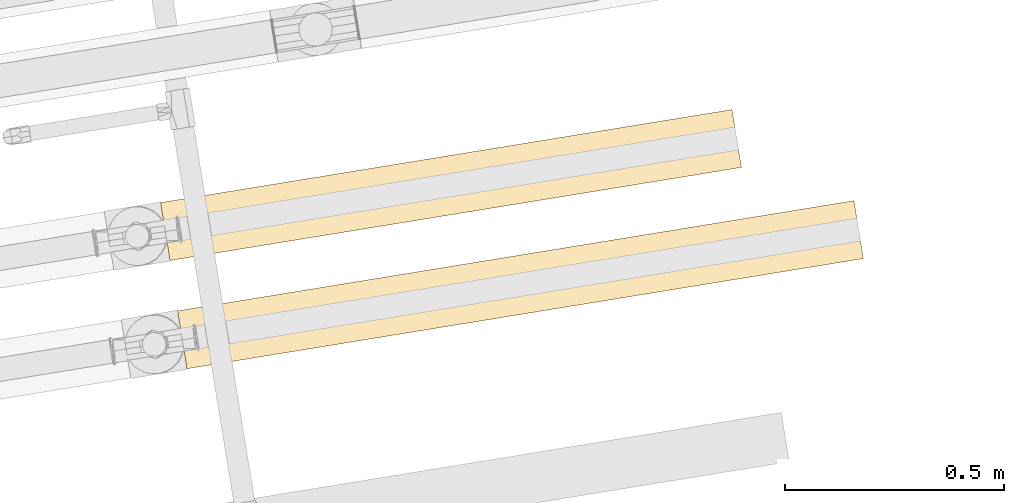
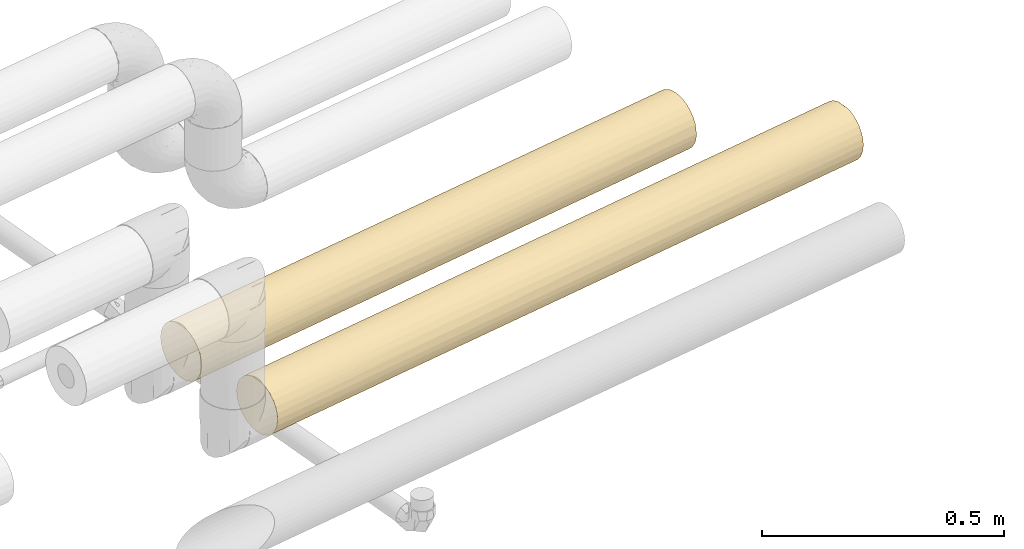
# One storey, part 2 of 56: 2 coverings.
"""IFC2X3 building model written with IfcOpenShell, lengths in millimetres."""

from ifc_helpers import new_model, entity, si_unit, converted_unit, derived_unit, direction, frame, origin, origin_with_axes, place, context, subcontext, project, spatial, faceted_brep, material, type_object, element, save


model = new_model("IFC2X3")

# Units and contexts
model_context = context("Model", 3, precision=0.01, world=origin(), true_north=direction((6.12323399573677e-17, 1.0)))
plan_context = context("Plan", 3, precision=1e-05, world=origin_with_axes())
body_context = subcontext(model_context, "Body", "Model", "MODEL_VIEW")
ifc_project = project(units=[converted_unit("PLANEANGLEUNIT", "DEGREE", entity("IfcPositiveLengthMeasure", 0.0174532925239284), si_unit("PLANEANGLEUNIT", "RADIAN"), dimensions=[0, 0, 0, 0, 0, 0, 0]), si_unit("AREAUNIT", "SQUARE_METRE"), si_unit("LENGTHUNIT", "METRE", prefix="MILLI"), si_unit("MASSUNIT", "GRAM", prefix="KILO"), si_unit("POWERUNIT", "WATT"), si_unit("PRESSUREUNIT", "PASCAL", prefix="KILO"), si_unit("FORCEUNIT", "NEWTON", prefix="KILO"), si_unit("ELECTRICVOLTAGEUNIT", "VOLT"), si_unit("ELECTRICCURRENTUNIT", "AMPERE"), si_unit("THERMODYNAMICTEMPERATUREUNIT", "DEGREE_CELSIUS"), si_unit("TIMEUNIT", "SECOND"), si_unit("VOLUMEUNIT", "CUBIC_METRE"), derived_unit("LINEARVELOCITYUNIT", [(si_unit("LENGTHUNIT", "METRE"), 1), (si_unit("TIMEUNIT", "SECOND"), -1)]), derived_unit("VOLUMETRICFLOWRATEUNIT", [(si_unit("VOLUMEUNIT", "CUBIC_METRE"), 1), (si_unit("TIMEUNIT", "SECOND"), -1)]), derived_unit("THERMALTRANSMITTANCEUNIT", [(si_unit("POWERUNIT", "WATT"), 1), (si_unit("THERMODYNAMICTEMPERATUREUNIT", "KELVIN"), -1), (si_unit("AREAUNIT", "SQUARE_METRE"), -1)]), derived_unit("SOUNDPRESSUREUNIT", [(si_unit("PRESSUREUNIT", "PASCAL"), 1)])], contexts=[model_context, plan_context])

# Site, building, storey
site_placement = place(None, frame((-3.09682673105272e-06, 1.93776733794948e-05, 0.0), z_axis=(0.0, 0.0, 1.0), x_axis=(-0.160806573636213, 0.986985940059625, 0.0)))
site = spatial("IfcSite", under=ifc_project, at=site_placement, Name="Default", CompositionType="ELEMENT")
building_placement = place(site_placement, frame((0.0, 0.0, 0.0), z_axis=(0.0, 0.0, 1.0), x_axis=(1.0, -2.77555756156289e-17, 0.0)))
building = spatial("IfcBuilding", under=site, at=building_placement, Name="Bygning (endres i Project Information)", CompositionType="ELEMENT")
storey_placement = place(building_placement, frame((0.0, 0.0, 51360.0000000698), z_axis=(0.0, 0.0, 1.0), x_axis=(1.0, -2.77555756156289e-17, 0.0)))
storey = spatial("IfcBuildingStorey", under=building, at=storey_placement, Name="H01-Nivå D+0,36", CompositionType="ELEMENT", Elevation=51360.0000000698)

# Coverings
ifc_material = material(Name="3200.003 Tur")
covering_type = type_object("IfcCoveringType", Name="Pipe Insulation:GLAVA Rørskål ClimPipe Alu2, isol.kl.4, 45°C", PredefinedType="INSULATION")
covering_1_placement = place(storey_placement, frame((1010969.84157053, -396821.852574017, 3231.40472772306), z_axis=(0.0, 0.0, 1.0), x_axis=(1.0, -2.77555756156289e-17, 0.0)))
element("IfcCovering", 1, at=covering_1_placement, inside=storey, type_object=covering_type, material=ifc_material, Name="Pipe Insulation:GLAVA Rørskål ClimPipe Alu2, isol.kl.4, 45°C", ObjectType="Pipe Insulation:GLAVA Rørskål ClimPipe Alu2, isol.kl.4, 45°C", PredefinedType="INSULATION", context=body_context, shape_type="Brep", body=[
    faceted_brep([(52.3471952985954, 1565.09527223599, 133.595272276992), (84.8433492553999, 1565.09527223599, 133.595272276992), (98.6988514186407, 1565.09527223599, 128.451554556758), (111.084056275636, 1565.09527223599, 120.399743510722), (121.401493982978, 1565.09527223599, 109.832427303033), (129.153520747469, 1565.09527223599, 97.2605569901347), (133.962563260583, 1565.09527223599, 83.296199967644), (135.595272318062, 1565.09527223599, 68.5952722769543), (133.312302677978, 1565.09527223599, 51.2543962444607), (126.618974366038, 1565.09527223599, 35.0952722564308), (115.971426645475, 1565.09527223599, 21.2191179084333), (102.095272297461, 1565.09527223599, 10.5715701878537), (85.9361483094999, 1565.09527223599, 3.87824187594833), (68.5952722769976, 1565.09527223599, 1.5952722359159), (51.2543962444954, 1565.09527223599, 3.87824187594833), (35.0952722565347, 1565.09527223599, 10.5715701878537), (21.2191179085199, 1565.09527223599, 21.2191179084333), (10.5715701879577, 1565.09527223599, 35.0952722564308), (3.87824187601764, 1565.09527223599, 51.2543962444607), (1.59527223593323, 1565.09527223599, 68.5952722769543), (3.22798129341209, 1565.09527223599, 83.2961999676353), (8.03702380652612, 1565.09527223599, 97.2605569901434), (15.7890505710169, 1565.09527223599, 109.832427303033), (26.1064882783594, 1565.09527223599, 120.399743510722), (38.4916931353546, 1565.09527223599, 128.451554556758), (52.3471952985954, 1.59527223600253, 133.595272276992), (38.4916931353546, 1.59527223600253, 128.451554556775), (26.1064882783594, 1.59527223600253, 120.39974351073), (15.7890505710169, 1.59527223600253, 109.832427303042), (8.03702380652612, 1.59527223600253, 97.2605569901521), (3.22798129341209, 1.59527223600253, 83.296199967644), (1.59527223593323, 1.59527223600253, 68.5952722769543), (3.87824187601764, 1.59527223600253, 51.2543962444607), (10.5715701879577, 1.59527223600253, 35.0952722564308), (21.2191179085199, 1.59527223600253, 21.2191179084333), (35.0952722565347, 1.59527223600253, 10.5715701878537), (51.2543962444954, 1.59527223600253, 3.87824187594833), (68.5952722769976, 1.59527223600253, 1.5952722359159), (85.9361483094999, 1.59527223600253, 3.87824187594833), (102.095272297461, 1.59527223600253, 10.5715701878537), (115.971426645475, 1.59527223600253, 21.2191179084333), (126.618974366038, 1.59527223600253, 35.0952722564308), (133.312302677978, 1.59527223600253, 51.2543962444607), (135.595272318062, 1.59527223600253, 68.5952722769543), (133.962563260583, 1.59527223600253, 83.296199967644), (129.153520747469, 1.59527223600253, 97.2605569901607), (121.401493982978, 1.59527223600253, 109.832427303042), (111.084056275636, 1.59527223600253, 120.39974351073), (98.6988514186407, 1.59527223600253, 128.451554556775), (84.8433492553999, 1.59527223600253, 133.595272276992), (121.749946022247, 361.472667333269, 27.8082563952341), (130.495200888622, 1194.38698295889, 42.955482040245), (134.599849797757, 1225.27775070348, 57.0889369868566), (132.291921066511, 783.345261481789, 47.8169918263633), (130.495200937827, 372.303551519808, 42.9554821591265), (134.406311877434, 430.307763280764, 56.0291641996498), (68.5952722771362, 573.211876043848, 1.5952722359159), (79.8209605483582, 335.906756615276, 2.54238491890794), (68.5952722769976, 1069.15357413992, 1.5952722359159), (82.7358221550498, 1064.07945552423, 3.104472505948), (82.0682563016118, 700.837559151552, 2.96388720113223), (135.595272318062, 1174.22027223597, 68.5952722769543), (135.595272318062, 993.478607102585, 68.5952722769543), (121.74994592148, 783.345269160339, 27.8082562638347), (135.595272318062, 783.345272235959, 68.5952722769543), (135.595272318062, 573.211937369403, 68.5952722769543), (109.382287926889, 485.463077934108, 15.440598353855), (112.715543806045, 799.859017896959, 18.1730386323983), (109.382287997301, 1114.25496017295, 15.4405984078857), (68.5952722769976, 993.478629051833, 1.5952722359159), (121.749946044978, 1205.21787359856, 27.8082564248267), (94.2350622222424, 873.708229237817, 6.69534354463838), (94.2350622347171, 1254.45068068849, 6.6953435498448), (94.2350621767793, 393.770886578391, 6.69534352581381), (135.595272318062, 392.470272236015, 68.5952722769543), (135.595272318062, 287.403604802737, 68.5952722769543), (42.9554822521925, 372.303558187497, 6.69534357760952), (57.0889373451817, 341.412788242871, 2.59069469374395), (3.10447251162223, 1064.07945602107, 54.454722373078), (27.8082565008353, 1205.21787495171, 15.4405984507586), (15.4405984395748, 1114.25496203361, 27.8082565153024), (57.0889373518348, 1225.27775613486, 2.59069469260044), (47.816992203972, 783.345272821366, 4.8986233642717), (42.9554822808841, 1194.38698718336, 6.69534356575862), (27.808256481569, 361.472669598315, 15.4405984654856), (15.4405984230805, 485.463080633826, 27.8082565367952), (18.1730387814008, 799.859021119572, 24.4750005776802), (27.8082564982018, 783.34527231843, 15.4405984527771), (2.96388720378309, 700.837560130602, 55.1222882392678), (1.59527223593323, 573.209787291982, 68.5952722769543), (1.59527223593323, 993.480118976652, 68.5952722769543), (1.59527223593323, 1069.15033529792, 68.5952722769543), (6.69534355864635, 1254.45068118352, 42.9554822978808), (6.6953435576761, 873.708230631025, 42.9554823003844), (6.69534355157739, 393.770887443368, 42.9554823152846), (2.54238493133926, 335.906757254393, 57.3695839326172), (1.59527223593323, 497.537695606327, 68.5952722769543), (5.24654547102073, 292.138827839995, 90.4112943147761), (5.24654547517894, 636.980437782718, 90.4112943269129), (11.565554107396, 400.73689655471, 103.760756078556), (20.6557106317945, 783.345272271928, 115.401238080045), (20.757449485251, 335.921504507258, 115.505214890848), (4.0677422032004, 1102.06315175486, 86.6285156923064), (32.0765002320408, 1132.77844579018, 124.76803519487), (43.1798450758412, 783.345272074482, 130.587659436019), (46.6117206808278, 1183.23689570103, 131.886057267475), (10.8265478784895, 754.380066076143, 102.533075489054), (32.07650024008, 433.912098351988, 124.768035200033), (11.5655541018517, 1108.02323566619, 103.760756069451), (20.5595326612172, 1224.74060040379, 115.302527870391), (46.6117206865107, 383.453648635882, 131.886057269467), (68.5952722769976, 991.478344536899, 135.595272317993), (56.9394875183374, 783.345272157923, 134.573622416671), (68.5952722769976, 575.212199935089, 135.595272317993), (31.1400263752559, 790.535502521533, 124.147991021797), (60.4099194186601, 1563.59715193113, 135.093392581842), (68.5952722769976, 1277.28554934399, 135.595272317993), (68.5952722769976, 1563.09527219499, 135.595272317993), (60.4099194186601, 3.0933925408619, 135.093392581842), (68.5952722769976, 3.59527227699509, 135.595272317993), (68.5952722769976, 289.404995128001, 135.595272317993), (91.9133653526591, 483.936311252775, 131.406629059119), (79.8581768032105, 432.30776440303, 134.641823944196), (131.943999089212, 458.671433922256, 90.4112942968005), (115.519905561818, 795.556880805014, 116.418684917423), (116.534833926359, 1132.44359375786, 115.401238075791), (105.11404432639, 843.2052655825, 124.768035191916), (125.650189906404, 1156.83217670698, 103.719855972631), (125.624990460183, 783.345272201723, 103.7607560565), (131.943999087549, 1108.01911061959, 90.4112943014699), (105.111649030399, 1226.52057708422, 124.769592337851), (76.7806251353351, 3.0933925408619, 135.093392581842), (116.534833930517, 458.67016788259, 115.40123807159), (105.111909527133, 471.403579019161, 124.769422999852), (76.7806251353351, 1563.59715193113, 135.093392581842), (79.7707465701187, 1134.38278017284, 134.65667386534), (125.625047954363, 408.481756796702, 103.760662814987), (94.0406246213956, 796.495562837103, 130.575382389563), (91.9133653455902, 1132.40894013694, 131.406629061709), (81.9568807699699, 783.345272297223, 134.249422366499), (133.950805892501, 783.345272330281, 83.348381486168)], [[[0, 1, 2, 3, 4, 5, 6, 7, 8, 9, 10, 11, 12, 13, 14, 15, 16, 17, 18, 19, 20, 21, 22, 23, 24]], [[25, 26, 27, 28, 29, 30, 31, 32, 33, 34, 35, 36, 37, 38, 39, 40, 41, 42, 43, 44, 45, 46, 47, 48, 49]], [[41, 40, 50]], [[51, 52, 53]], [[54, 42, 41]], [[42, 54, 55]], [[37, 56, 57]], [[58, 59, 60]], [[52, 7, 61, 62]], [[53, 54, 63]], [[53, 62, 64, 65]], [[50, 66, 67]], [[51, 9, 8]], [[68, 11, 10]], [[60, 56, 69, 58]], [[70, 68, 10]], [[67, 71, 68]], [[12, 11, 72]], [[40, 39, 66]], [[66, 39, 73]], [[55, 65, 74, 75]], [[68, 71, 72]], [[12, 72, 59]], [[70, 51, 63]], [[54, 50, 63]], [[75, 43, 42]], [[9, 70, 10]], [[12, 59, 13]], [[73, 39, 38]], [[67, 70, 63, 50]], [[60, 57, 56]], [[71, 66, 73]], [[54, 41, 50]], [[53, 65, 55]], [[42, 55, 75]], [[53, 55, 54]], [[52, 51, 8]], [[63, 51, 53]], [[66, 50, 40]], [[51, 70, 9]], [[68, 72, 11]], [[59, 72, 71]], [[59, 71, 60]], [[59, 58, 13]], [[71, 73, 60]], [[57, 73, 38]], [[73, 57, 60]], [[37, 57, 38]], [[7, 52, 8]], [[53, 52, 62]], [[71, 67, 66]], [[70, 67, 68]], [[76, 77, 36]], [[18, 78, 19]], [[79, 80, 16]], [[81, 82, 83]], [[77, 37, 36]], [[36, 35, 76]], [[34, 84, 35]], [[81, 13, 58, 69]], [[37, 77, 56]], [[79, 16, 15]], [[15, 14, 83]], [[33, 85, 34]], [[86, 79, 87, 84]], [[88, 89, 90, 91]], [[79, 83, 87]], [[76, 84, 87]], [[69, 56, 82]], [[18, 17, 92]], [[93, 92, 80]], [[93, 85, 94]], [[80, 17, 16]], [[84, 85, 86]], [[95, 31, 96, 89]], [[18, 92, 78]], [[94, 85, 33]], [[76, 87, 82]], [[94, 33, 32]], [[86, 93, 80]], [[91, 78, 88]], [[88, 95, 89]], [[76, 35, 84]], [[77, 82, 56]], [[81, 83, 14]], [[87, 83, 82]], [[83, 79, 15]], [[85, 84, 34]], [[80, 92, 17]], [[78, 92, 93]], [[78, 93, 88]], [[78, 91, 19]], [[93, 94, 88]], [[95, 94, 32]], [[94, 95, 88]], [[31, 95, 32]], [[82, 77, 76]], [[13, 81, 14]], [[82, 81, 69]], [[93, 86, 85]], [[79, 86, 80]], [[30, 29, 97]], [[31, 30, 96]], [[98, 97, 99]], [[100, 99, 101]], [[28, 27, 101]], [[102, 20, 19]], [[103, 104, 105]], [[98, 90, 89, 96, 97]], [[102, 19, 91, 90]], [[106, 102, 98]], [[99, 29, 28]], [[101, 27, 107]], [[22, 108, 109]], [[22, 21, 108]], [[110, 26, 25]], [[106, 100, 108]], [[111, 112, 113]], [[114, 104, 103]], [[112, 110, 113]], [[30, 97, 96]], [[23, 22, 109]], [[105, 24, 103]], [[115, 105, 111]], [[110, 104, 107]], [[115, 111, 116, 117]], [[118, 119, 120, 113]], [[113, 110, 118]], [[102, 21, 20]], [[24, 23, 103]], [[107, 27, 26]], [[99, 106, 98]], [[105, 115, 0]], [[114, 107, 104]], [[109, 100, 103]], [[99, 97, 29]], [[105, 104, 112]], [[24, 105, 0]], [[26, 110, 107]], [[110, 25, 118]], [[105, 112, 111]], [[110, 112, 104]], [[100, 101, 107]], [[28, 101, 99]], [[100, 106, 99]], [[102, 106, 108]], [[98, 102, 90]], [[21, 102, 108]], [[100, 109, 108]], [[23, 109, 103]], [[103, 100, 114]], [[107, 114, 100]], [[49, 48, 121]], [[113, 120, 122]], [[44, 74, 123]], [[124, 125, 126]], [[127, 128, 129]], [[126, 125, 130]], [[131, 49, 122]], [[132, 133, 47]], [[134, 117, 116]], [[131, 120, 119]], [[134, 116, 135]], [[132, 136, 128]], [[125, 128, 127]], [[121, 122, 49]], [[47, 46, 132]], [[3, 125, 4]], [[134, 135, 1]], [[123, 128, 136]], [[133, 126, 137]], [[61, 6, 129]], [[61, 7, 6]], [[44, 43, 75, 74]], [[124, 128, 125]], [[45, 44, 123]], [[138, 126, 130]], [[46, 45, 136]], [[130, 3, 2]], [[127, 4, 125]], [[113, 122, 139]], [[138, 139, 137]], [[129, 6, 5]], [[133, 48, 47]], [[140, 128, 123]], [[140, 74, 65, 64, 62, 61]], [[123, 74, 140]], [[1, 138, 2]], [[139, 111, 113]], [[137, 139, 121]], [[139, 138, 135]], [[3, 130, 125]], [[2, 138, 130]], [[133, 137, 121]], [[138, 137, 126]], [[122, 120, 131]], [[139, 122, 121]], [[140, 61, 129]], [[48, 133, 121]], [[124, 133, 132]], [[46, 136, 132]], [[45, 123, 136]], [[128, 140, 129]], [[133, 124, 126]], [[128, 124, 132]], [[129, 5, 127]], [[4, 127, 5]], [[135, 116, 111]], [[139, 135, 111]], [[1, 135, 138]], [[0, 115, 117, 134, 1]], [[118, 25, 49, 131, 119]]]),
])
covering_2_placement = place(storey_placement, frame((1011219.80953617, -397071.820539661, 3231.40472772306), z_axis=(0.0, 0.0, 1.0), x_axis=(1.0, -2.77555756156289e-17, 0.0)))
element("IfcCovering", 2, at=covering_2_placement, inside=storey, type_object=covering_type, Name="Pipe Insulation:GLAVA Rørskål ClimPipe Alu2, isol.kl.4, 45°C", ObjectType="Pipe Insulation:GLAVA Rørskål ClimPipe Alu2, isol.kl.4, 45°C", PredefinedType="INSULATION", context=body_context, shape_type="Brep", body=[
    faceted_brep([(38.4916931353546, 1813.59527223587, 128.451554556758), (26.1064882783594, 1813.59527223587, 120.399743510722), (15.7890505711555, 1813.59527223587, 109.832427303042), (8.03702380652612, 1813.59527223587, 97.2605569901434), (3.22798129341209, 1813.59527223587, 83.2961999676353), (1.59527223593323, 1813.59527223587, 68.5952722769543), (3.87824187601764, 1813.59527223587, 51.2543962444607), (10.5715701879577, 1813.59527223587, 35.0952722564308), (21.2191179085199, 1813.59527223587, 21.2191179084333), (35.0952722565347, 1813.59527223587, 10.5715701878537), (51.2543962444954, 1813.59527223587, 3.87824187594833), (68.5952722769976, 1813.59527223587, 1.5952722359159), (85.9361483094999, 1813.59527223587, 3.87824187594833), (102.095272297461, 1813.59527223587, 10.5715701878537), (115.971426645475, 1813.59527223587, 21.2191179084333), (126.618974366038, 1813.59527223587, 35.0952722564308), (133.312302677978, 1813.59527223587, 51.2543962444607), (135.595272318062, 1813.59527223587, 68.5952722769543), (133.962563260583, 1813.59527223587, 83.296199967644), (129.153520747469, 1813.59527223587, 97.2605569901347), (121.40149398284, 1813.59527223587, 109.832427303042), (111.084056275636, 1813.59527223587, 120.399743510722), (98.6988514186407, 1813.59527223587, 128.451554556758), (84.8433492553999, 1813.59527223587, 133.595272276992), (52.3471952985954, 1813.59527223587, 133.595272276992), (127.934789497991, 492.73648285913, 38.5207194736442), (130.189178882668, 492.73648285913, 42.3349308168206), (130.495200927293, 534.834921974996, 42.9554821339), (121.749946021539, 492.73648285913, 27.8082563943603), (121.749946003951, 907.595269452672, 27.8082563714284), (129.252738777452, 890.009750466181, 40.1405404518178), (130.495200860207, 1280.35561202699, 42.9554819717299), (121.749946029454, 1410.64438517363, 27.8082564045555), (109.382287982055, 1280.35561729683, 15.4405983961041), (94.2350622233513, 1410.64438418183, 6.69534354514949), (98.5418260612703, 1076.71356329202, 8.66027480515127), (110.366809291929, 875.313296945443, 16.2107449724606), (109.436894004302, 492.73648285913, 15.4833142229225), (110.017618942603, 492.73648285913, 16.0759293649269), (108.133570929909, 492.73648285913, 14.7196512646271), (94.2350621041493, 742.782744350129, 6.6953434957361), (94.2350621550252, 492.73648285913, 6.69534351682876), (88.4862170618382, 492.73648285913, 4.96225929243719), (81.4398478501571, 680.564806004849, 2.83801500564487), (85.3407935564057, 1076.71356583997, 3.72164494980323), (68.5952722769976, 1144.82875118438, 1.5952722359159), (81.1999287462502, 1401.96500685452, 2.79160489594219), (68.5952722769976, 1527.78704964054, 1.5952722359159), (68.5952722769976, 1241.97864334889, 1.5952722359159), (55.956689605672, 1451.52149939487, 2.79811250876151), (53.8098718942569, 927.725041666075, 3.24703633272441), (42.9554822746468, 1280.35561670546, 6.69534356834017), (40.1405405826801, 925.18078908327, 7.9378057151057), (27.8082564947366, 907.595272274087, 15.4405984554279), (42.9554822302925, 534.834926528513, 6.69534358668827), (27.8082564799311, 492.73648285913, 15.4405984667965), (38.5207191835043, 492.73648285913, 9.25575523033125), (42.3349308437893, 492.73648285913, 7.0013656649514), (6.69534354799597, 492.73648285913, 42.9554823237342), (14.7196513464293, 492.73648285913, 29.0569735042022), (6.69534354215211, 742.782744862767, 42.9554823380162), (4.96225931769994, 492.73648285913, 48.7043274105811), (2.83801501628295, 680.564807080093, 55.7506966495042), (3.72164499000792, 1076.71356516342, 51.8497508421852), (1.59527223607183, 1144.82878473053, 68.5952722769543), (2.79160489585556, 1401.96500461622, 55.9906158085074), (6.6953435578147, 1410.64438453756, 42.9554823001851), (1.59527223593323, 1527.78497088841, 68.5952722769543), (1.59527223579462, 1241.97598407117, 68.5952722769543), (5.24654546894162, 1285.82114920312, 90.4112943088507), (2.61896029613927, 1067.01291523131, 80.262588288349), (1.59527223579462, 670.360221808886, 68.5952722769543), (5.24654547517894, 542.794657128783, 90.4112943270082), (4.53088027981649, 492.73648285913, 86.135260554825), (1.59527223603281, 492.73648285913, 68.5952722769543), (5.05983861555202, 492.73648285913, 89.7531845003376), (5.50465044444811, 492.73648285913, 91.0448160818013), (6.68359228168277, 492.73648285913, 93.5496634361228), (18.8831482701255, 492.73648285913, 113.127688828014), (10.9938192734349, 492.73648285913, 102.807525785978), (11.5103907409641, 730.569535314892, 103.671137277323), (20.6557106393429, 492.73648285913, 115.401238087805), (20.6557106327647, 907.595272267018, 115.401238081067), (23.4066882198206, 492.73648285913, 117.695040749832), (31.1699516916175, 654.098405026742, 124.168155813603), (31.5853740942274, 492.73648285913, 124.443048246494), (44.3566639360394, 492.73648285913, 131.005745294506), (41.4781577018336, 492.73648285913, 129.496109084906), (45.2771792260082, 569.821776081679, 131.406629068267), (46.2362936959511, 492.73648285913, 131.703539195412), (49.4995542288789, 492.73648285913, 132.557180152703), (56.9890201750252, 492.73648285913, 134.582094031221), (57.1918596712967, 658.238193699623, 134.617709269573), (64.1054903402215, 492.73648285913, 135.197812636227), (68.5952722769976, 575.212278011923, 135.595272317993), (55.3235996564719, 953.797415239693, 134.267661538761), (42.4369238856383, 903.965398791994, 130.277853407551), (45.277179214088, 1238.1090216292, 131.406629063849), (31.1012700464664, 1154.30985322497, 124.121840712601), (32.0765002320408, 1509.47478026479, 124.768035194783), (57.6117569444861, 1336.30776420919, 134.688860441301), (60.4099194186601, 1812.09715193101, 135.093392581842), (68.5952722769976, 1525.78676932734, 135.595272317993), (68.5952722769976, 1239.97200556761, 135.595272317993), (68.5952722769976, 1146.82928374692, 135.595272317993), (79.7731129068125, 1382.88278017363, 134.656273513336), (81.866944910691, 861.393129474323, 134.267661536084), (91.9133653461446, 1374.16923904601, 131.406629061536), (76.7806251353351, 1812.09715193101, 135.093392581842), (105.111640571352, 1476.01833970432, 124.769597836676), (105.114044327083, 1074.9760873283, 124.768035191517), (94.6710682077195, 909.147798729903, 130.312797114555), (105.467512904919, 665.734078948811, 124.536651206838), (116.547520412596, 993.384510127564, 115.388240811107), (116.534833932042, 511.716429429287, 115.401238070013), (115.472005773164, 492.73648285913, 116.272919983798), (105.296690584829, 492.73648285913, 124.648473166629), (96.047568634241, 492.73648285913, 129.327546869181), (91.9133653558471, 577.081522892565, 131.406629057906), (92.9078671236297, 492.73648285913, 130.973524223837), (90.8771619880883, 492.73648285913, 131.727403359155), (81.3189277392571, 492.73648285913, 134.225809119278), (79.6616597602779, 492.73648285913, 134.67360552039), (78.7757086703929, 492.73648285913, 134.755134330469), (68.5952722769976, 668.356498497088, 135.595272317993), (68.5952722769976, 492.73648285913, 135.595272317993), (116.332028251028, 492.73648285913, 115.587216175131), (116.715906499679, 492.73648285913, 115.19404076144), (125.287809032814, 492.73648285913, 104.245476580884), (125.625045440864, 535.355440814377, 103.760666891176), (125.906782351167, 492.73648285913, 103.241654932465), (131.840168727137, 492.73648285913, 90.6661471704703), (131.943999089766, 511.71752182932, 90.4112942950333), (125.624990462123, 907.595272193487, 103.760756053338), (133.522978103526, 907.595272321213, 85.129873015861), (131.943999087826, 1303.4730227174, 90.4112943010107), (135.595272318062, 1360.59527223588, 68.5952722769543), (135.595272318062, 492.73648285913, 68.5952722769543), (135.420791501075, 492.73648285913, 69.9874349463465), (135.133318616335, 492.73648285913, 63.7413941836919), (135.595272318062, 573.211936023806, 68.5952722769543), (133.157273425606, 492.73648285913, 83.162091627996), (132.019107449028, 492.73648285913, 90.1465501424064), (134.281813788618, 492.73648285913, 55.4276973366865), (133.943508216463, 887.465490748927, 53.8098718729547), (131.453729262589, 492.73648285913, 46.1531435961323), (130.717606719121, 492.73648285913, 43.6106684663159), (135.595272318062, 907.5952722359, 68.5952722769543), (135.595272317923, 1144.82859981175, 68.5952722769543), (134.497703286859, 1336.30775947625, 56.517623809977), (135.595272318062, 1527.78694034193, 68.5952722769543), (125.516962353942, 1284.67377710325, 103.935351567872), (116.534833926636, 1374.20310779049, 115.401238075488), (68.5952722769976, 1811.59527219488, 135.595272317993), (20.6557106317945, 1379.63401329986, 115.401238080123), (11.5655541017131, 1503.92853323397, 103.760756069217), (12.0705158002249, 1143.61464268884, 104.566815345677), (5.82623711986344, 914.307903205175, 92.0270505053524), (1.9373901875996, 492.73648285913, 64.62705420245), (1.59527223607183, 573.212028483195, 68.5952722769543), (2.69761794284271, 492.73648285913, 56.5116320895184), (15.4405984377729, 1280.35561726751, 27.8082565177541), (8.660274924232, 1076.71356445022, 38.6487182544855), (16.2107451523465, 875.3132978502, 26.8237350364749), (15.4833142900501, 492.73648285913, 27.753650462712), (16.0759294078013, 492.73648285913, 27.172925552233), (27.808256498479, 1410.64438424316, 15.4405984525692), (43.6106686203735, 492.73648285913, 6.47293777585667), (53.1596495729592, 492.73648285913, 3.6838573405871), (56.4340484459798, 492.73648285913, 2.70994663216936), (57.3914536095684, 492.73648285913, 2.61343101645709), (68.5952722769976, 670.36201446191, 1.5952722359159), (68.5952722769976, 492.73648285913, 1.59527223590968), (72.5634992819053, 492.73648285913, 1.93739095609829), (68.5952722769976, 573.212305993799, 1.59527223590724), (80.6789124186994, 492.73648285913, 2.69761793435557)], [[[0, 1, 2, 3, 4, 5, 6, 7, 8, 9, 10, 11, 12, 13, 14, 15, 16, 17, 18, 19, 20, 21, 22, 23, 24]], [[25, 26, 27]], [[28, 25, 27, 29]], [[30, 29, 27]], [[29, 30, 31]], [[31, 32, 29]], [[32, 31, 15]], [[14, 32, 15]], [[32, 14, 33]], [[14, 13, 33]], [[13, 34, 33]], [[35, 33, 34]], [[36, 33, 35]], [[36, 29, 33]], [[37, 38, 29, 36]], [[39, 37, 36, 40]], [[41, 39, 40]], [[42, 41, 40, 43]], [[44, 43, 40]], [[44, 45, 43]], [[44, 46, 45]], [[34, 46, 44]], [[34, 12, 46]], [[47, 46, 12]], [[11, 47, 12]], [[48, 47, 11, 49]], [[48, 49, 50]], [[49, 51, 50]], [[50, 51, 52]], [[52, 51, 53]], [[54, 52, 53]], [[55, 56, 54, 53]], [[56, 57, 54]], [[58, 59, 60]], [[61, 58, 60, 62]], [[63, 62, 60]], [[63, 64, 62]], [[63, 65, 64]], [[66, 65, 63]], [[66, 6, 65]], [[67, 65, 6]], [[5, 67, 6]], [[68, 67, 5, 4]], [[4, 69, 68]], [[70, 68, 69]], [[71, 64, 68, 70]], [[71, 70, 72]], [[73, 74, 71, 72]], [[75, 73, 72]], [[76, 75, 72]], [[77, 76, 72]], [[78, 79, 80]], [[81, 78, 80, 82]], [[83, 81, 82, 84]], [[85, 83, 84]], [[86, 87, 88]], [[89, 86, 88]], [[90, 89, 88]], [[91, 90, 88, 92]], [[93, 91, 92, 94]], [[92, 95, 94]], [[96, 95, 92]], [[97, 95, 96]], [[97, 96, 98]], [[98, 99, 97]], [[0, 97, 99]], [[0, 24, 97]], [[24, 100, 97]], [[24, 101, 100]], [[101, 102, 100]], [[102, 103, 104, 100]], [[103, 102, 105]], [[103, 105, 106]], [[105, 107, 106]], [[107, 105, 23]], [[23, 105, 108]], [[107, 23, 22]], [[109, 107, 22]], [[107, 109, 110]], [[110, 111, 107]], [[112, 111, 110]], [[112, 110, 113]], [[113, 114, 112]], [[115, 116, 112, 114]], [[116, 117, 118, 112]], [[117, 119, 118]], [[119, 120, 118]], [[120, 121, 118]], [[121, 122, 106, 118]], [[111, 118, 106]], [[122, 123, 124, 106]], [[123, 125, 124]], [[126, 115, 114]], [[127, 126, 114]], [[128, 127, 114, 129]], [[130, 128, 129]], [[131, 130, 129, 132]], [[129, 133, 132]], [[132, 133, 134]], [[135, 134, 133]], [[135, 136, 134]], [[137, 138, 134, 136]], [[139, 137, 140]], [[141, 142, 132]], [[143, 139, 140, 144]], [[145, 143, 144, 27]], [[146, 145, 27]], [[140, 147, 148, 144]], [[148, 149, 144]], [[144, 149, 31]], [[31, 149, 16]], [[16, 149, 150]], [[150, 17, 16]], [[17, 150, 136, 18]], [[148, 136, 150, 149]], [[135, 18, 136]], [[19, 18, 135]], [[135, 151, 19]], [[20, 19, 151]], [[152, 20, 151]], [[152, 151, 113]], [[133, 113, 151]], [[20, 152, 21]], [[152, 109, 21]], [[133, 151, 135]], [[138, 141, 132, 134]], [[142, 131, 132]], [[129, 114, 133]], [[133, 114, 113]], [[152, 113, 110]], [[118, 111, 112]], [[152, 110, 109]], [[22, 21, 109]], [[111, 106, 107]], [[105, 102, 108]], [[102, 153, 108]], [[124, 104, 103, 106]], [[95, 100, 104]], [[153, 102, 101]], [[99, 1, 0]], [[1, 99, 154]], [[2, 1, 154]], [[155, 2, 154]], [[156, 155, 154]], [[154, 82, 156]], [[154, 98, 82]], [[156, 69, 155]], [[3, 155, 69]], [[69, 156, 157]], [[80, 157, 156]], [[72, 157, 80]], [[155, 3, 2]], [[99, 98, 154]], [[98, 96, 84]], [[88, 84, 96]], [[97, 100, 95]], [[104, 124, 94, 95]], [[125, 93, 94]], [[96, 92, 88]], [[87, 85, 84, 88]], [[82, 98, 84]], [[82, 80, 156]], [[79, 77, 72, 80]], [[74, 158, 159]], [[158, 160, 62, 159]], [[157, 72, 70]], [[157, 70, 69]], [[69, 4, 3]], [[6, 66, 7]], [[7, 66, 161]], [[162, 161, 66]], [[163, 161, 162]], [[163, 53, 161]], [[164, 165, 53, 163]], [[53, 166, 161]], [[166, 8, 161]], [[9, 8, 166]], [[9, 166, 51]], [[9, 51, 10]], [[163, 162, 60]], [[8, 7, 161]], [[162, 66, 63]], [[67, 68, 64, 65]], [[64, 71, 159, 62]], [[162, 63, 60]], [[160, 61, 62]], [[59, 164, 163, 60]], [[57, 167, 54]], [[167, 168, 54]], [[168, 169, 50, 54]], [[169, 170, 171, 50]], [[170, 172, 171]], [[172, 173, 174]], [[173, 175, 43, 174]], [[165, 55, 53]], [[51, 166, 53]], [[50, 52, 54]], [[51, 49, 10]], [[171, 45, 48, 50]], [[10, 49, 11]], [[47, 48, 45, 46]], [[45, 171, 174, 43]], [[35, 44, 40]], [[175, 42, 43]], [[36, 35, 40]], [[35, 34, 44]], [[12, 34, 13]], [[15, 31, 16]], [[32, 33, 29]], [[144, 31, 30]], [[30, 27, 144]], [[38, 28, 29]], [[26, 146, 27]], [[23, 108, 153, 101, 24]], [[28, 38, 37, 39, 41, 42, 175, 173, 172, 170, 169, 168, 167, 57, 56, 55, 165, 164, 59, 58, 61, 160, 158, 74, 73, 75, 76, 77, 79, 78, 81, 83, 85, 87, 86, 89, 90, 91, 93, 125, 123, 122, 121, 120, 119, 117, 116, 115, 126, 127, 128, 130, 131, 142, 141, 138, 137, 139, 143, 145, 146, 26, 25]]], orient=[[False], [False], [False], [False], [False], [False], [False], [False], [False], [False], [False], [False], [False], [False], [False], [False], [False], [False], [False], [False], [False], [False], [False], [False], [False], [False], [False], [False], [False], [False], [False], [False], [False], [False], [False], [False], [False], [False], [False], [False], [False], [False], [False], [False], [False], [False], [False], [False], [False], [False], [False], [False], [False], [False], [False], [False], [False], [False], [False], [False], [False], [False], [False], [False], [False], [False], [False], [False], [False], [False], [False], [False], [False], [False], [False], [False], [False], [False], [False], [False], [False], [False], [False], [False], [False], [False], [False], [False], [False], [False], [False], [False], [False], [False], [False], [False], [False], [False], [False], [False], [False], [False], [False], [False], [False], [False], [False], [False], [False], [False], [False], [False], [False], [False], [False], [False], [False], [False], [False], [False], [False], [False], [False], [False], [False], [False], [False], [False], [False], [False], [False], [False], [False], [False], [False], [False], [False], [False], [False], [False], [False], [False], [False], [False], [False], [False], [False], [False], [False], [False], [False], [False], [False], [False], [False], [False], [False], [False], [False], [False], [False], [False], [False], [False], [False], [False], [False], [False], [False], [False], [False], [False], [False], [False], [False], [False], [False], [False], [False], [False], [False], [False], [False], [False], [False], [False], [False], [False], [False], [False], [False], [False], [False], [False], [False], [False], [False], [False], [False], [False], [False], [False], [False], [False], [False], [False], [False], [False], [False], [False], [False], [False], [False], [False], [False]]),
])

save(model, "model.ifc")
